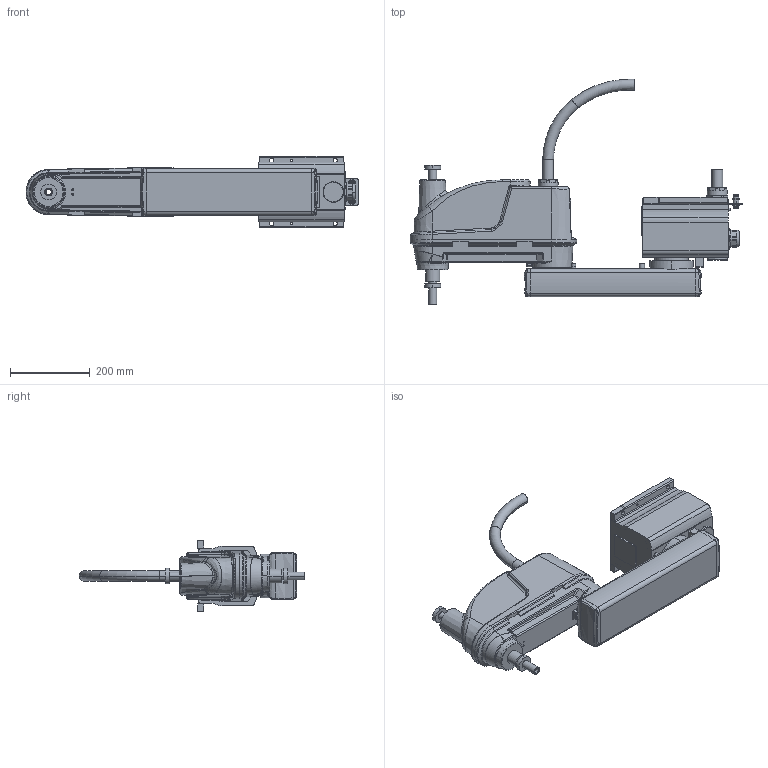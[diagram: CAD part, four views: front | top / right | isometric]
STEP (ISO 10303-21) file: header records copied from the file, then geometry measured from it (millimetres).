
FILE_DESCRIPTION((''),'2;1');
FILE_NAME('THL600-T_3D_ASM','2024-06-21T11:55:44',('15575'),(''),'CREO PARAMETRIC BY PTC INC, 2020454','CREO PARAMETRIC BY PTC INC, 2020454','');
FILE_SCHEMA(('AUTOMOTIVE_DESIGN { 1 0 10303 214 1 1 1 1 }'));
Products named in the file (5): THL567-T_BASE; THL600-T_1ST_ARM; THL600-T_BALL_SCREW; THL600-T_2ND_ARM; THL600-T_3D_ASM
Assembly tree (4 placements, depth 2):
  THL600-T_3D_ASM
    THL567-T_BASE
    THL600-T_1ST_ARM
    THL600-T_BALL_SCREW
    THL600-T_2ND_ARM
Bounding box: 833.99 x 565.94 x 180 mm (x, y, z)
Volume: 7152046.3 mm3; surface area: 1194855 mm2
Topology: 4 solids, 14 shells, 1542 faces, 3734 edges, 2374 vertices
Faces by surface type: plane 647, cylinder 554, bspline 170, cone 77, torus 68, sphere 20, revolution 6
Entity records: 65114 total; most frequent: CARTESIAN_POINT 22213, ORIENTED_EDGE 7416, DIRECTION 7259, EDGE_CURVE 3708, AXIS2_PLACEMENT_3D 2709, VERTEX_POINT 2349, VECTOR 1820, LINE 1820
